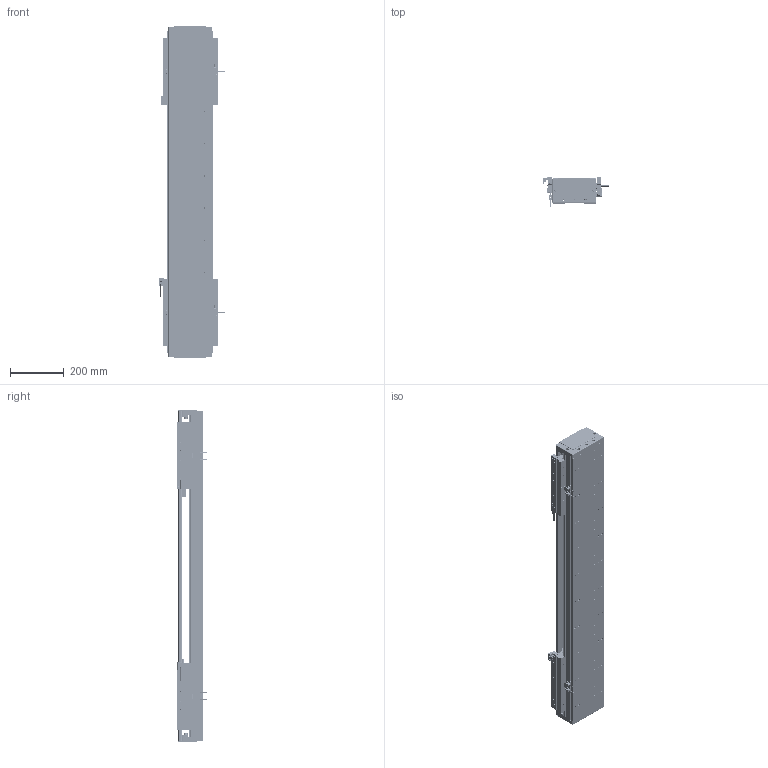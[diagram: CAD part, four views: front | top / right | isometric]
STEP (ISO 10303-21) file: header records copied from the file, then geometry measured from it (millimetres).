
FILE_DESCRIPTION (( 'STEP AP203' ), '1' );
FILE_NAME ('DA-C165-2-C3-T620-C010-0.2 直线电机.STEP', '2023-06-13T09:32:25', ( '微软用户' ), ( '微软中国' ), 'SwSTEP 2.0', 'SolidWorks 2019', '' );
FILE_SCHEMA (( 'CONFIG_CONTROL_DESIGN' ));
Length unit declared in the file: millimetre
Products named in the file (19): 葩璃 DA95-GT-T-00^IU-CU165-L 菁釱絳寢_T; 葩璃 PM-T45^DA-C165-C3-T-C010-0.2-N 眻盄萇儂; 复件 DMA-010-0.2 读数头^DA-C165-C3-T-C010-0.2-N 直线电机; 复件 DA165-T-002-00 盖板^DA-C165-C3-T-C010-0.2-N 直线电机_0840-002-00; 珨极趙賑雄怢啣C3-wf; 复件 DA126-GYP-ZJ-00 中间光电感应片^DA-C165-C3-T-C010-0.2-N 直线电机; 复件 DA165-GYP-00 光电感应片^DA-C165-C3-T-C010-0.2-N 直线电机; DA-C165-2-C3-T620-C010-0.2 眻盄萇儂; 复件 DA165-DG-H-N-00 端盖^DA-C165-C3-T-C010-0.2-N 直线电机; 葩璃 CKM03-W075-C1C2-TP-3.0^DA-C165-C3-T-C010-0.2-N 眻盄萇儂; 复件 DA95-HXJ-00 缓冲橡胶^DA-C165-C3-T-C010-0.2-N 直线电机; 葩璃 CKM01-W075-TRL^DA-C165-C3-T-C010-0.2-N 眻盄萇儂; 复件 CU165 底座^IU-CU165-L 底座导轨_L1200; 复件 DKW-HXJ-JY-00 缓冲橡胶^DA-C165-C3-T-C010-0.2-N 直线电机; 复件 六角薄螺母 M3^DA-C165-C3-T-C010-0.2-N 直线电机_GB_FASTENER_NUT_STNAB M3-C; IU-CU165-L 菁釱絳寢; 复件 66338-1000-006-00 光电感应块^DA-C165-C3-T-C010-0.2-N 直线电机; 葩璃 PM-Y45^DA-C165-C3-T-C010-0.2-N 眻盄萇儂; 复件 XD-U-02L 磁栅尺^DA-C165-C3-T-C010-0.2-N 直线电机_T
Assembly tree (40 placements, depth 3):
  DA-C165-2-C3-T620-C010-0.2 眻盄萇儂
    IU-CU165-L 菁釱絳寢
      复件 CU165 底座^IU-CU165-L 底座导轨_L1200
      葩璃 DA95-GT-T-00^IU-CU165-L 菁釱絳寢_T  x4
    复件 DA165-DG-H-N-00 端盖^DA-C165-C3-T-C010-0.2-N 直线电机  x2
    复件 DA95-HXJ-00 缓冲橡胶^DA-C165-C3-T-C010-0.2-N 直线电机  x4
    复件 DA165-T-002-00 盖板^DA-C165-C3-T-C010-0.2-N 直线电机_0840-002-00
    复件 XD-U-02L 磁栅尺^DA-C165-C3-T-C010-0.2-N 直线电机_T
    葩璃 PM-T45^DA-C165-C3-T-C010-0.2-N 眻盄萇儂  x4
    葩璃 CKM01-W075-TRL^DA-C165-C3-T-C010-0.2-N 眻盄萇儂
    复件 DMA-010-0.2 读数头^DA-C165-C3-T-C010-0.2-N 直线电机  x2
    复件 DA165-GYP-00 光电感应片^DA-C165-C3-T-C010-0.2-N 直线电机  x2
    复件 66338-1000-006-00 光电感应块^DA-C165-C3-T-C010-0.2-N 直线电机
    葩璃 PM-Y45^DA-C165-C3-T-C010-0.2-N 眻盄萇儂
    复件 DA126-GYP-ZJ-00 中间光电感应片^DA-C165-C3-T-C010-0.2-N 直线电机
    葩璃 CKM03-W075-C1C2-TP-3.0^DA-C165-C3-T-C010-0.2-N 眻盄萇儂  x2
    复件 DKW-HXJ-JY-00 缓冲橡胶^DA-C165-C3-T-C010-0.2-N 直线电机  x2
    复件 六角薄螺母 M3^DA-C165-C3-T-C010-0.2-N 直线电机_GB_FASTENER_NUT_STNAB M3-C  x8
    珨极趙賑雄怢啣C3-wf  x2
Bounding box: 247.2 x 111.45 x 1240 mm (x, y, z)
Volume: 11426485.2 mm3; surface area: 2890772 mm2
Topology: 117 solids, 217 shells, 5834 faces, 15223 edges, 9342 vertices
Faces by surface type: cylinder 2800, plane 1982, cone 956, torus 88, sphere 8
Entity records: 113710 total; most frequent: CARTESIAN_POINT 26856, DIRECTION 17889, ORIENTED_EDGE 17332, EDGE_CURVE 8666, AXIS2_PLACEMENT_3D 6737, VERTEX_POINT 5596, VECTOR 4415, LINE 4415
